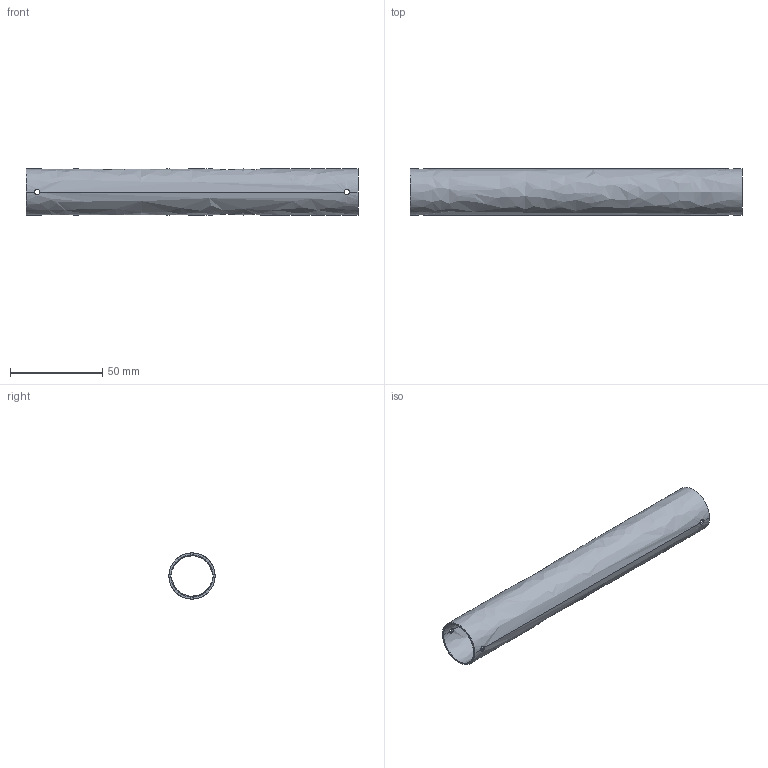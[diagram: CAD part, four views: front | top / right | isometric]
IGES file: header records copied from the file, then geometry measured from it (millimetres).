
Start section: START RECORD GO HERE.
Global section: file name: 9.igs; native system: DASSAULT SYSTEMES CATIA V5 R21 - www.3ds.com; preprocessor: CATIA Version 5 Release 21 ; author: E___; organization: MSI; date: 20160805.154249; units: millimetre
Bounding box: 180 x 25 x 25 mm (x, y, z)
Surface area: 27275.3 mm2 (no closed solid volume)
Topology: 0 solids, 0 shells, 14 faces, 88 edges, 88 vertices
Faces by surface type: revolution 12, plane 2
